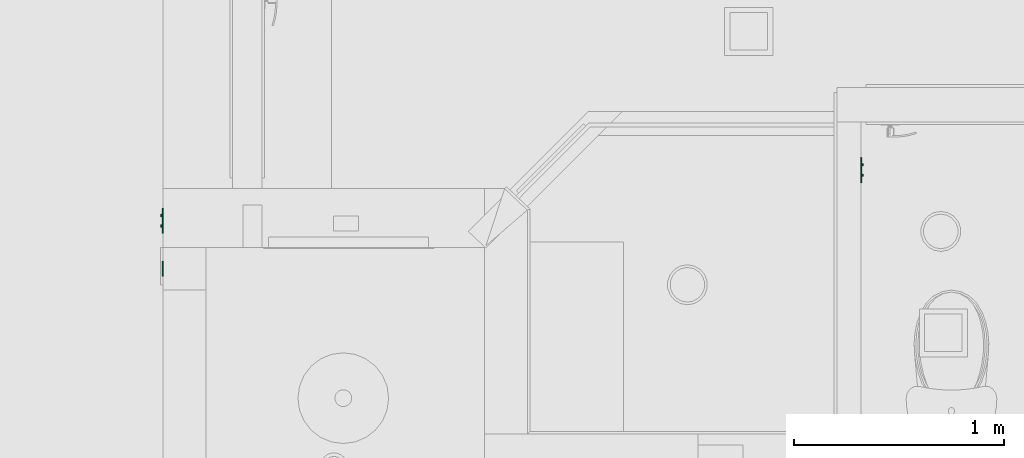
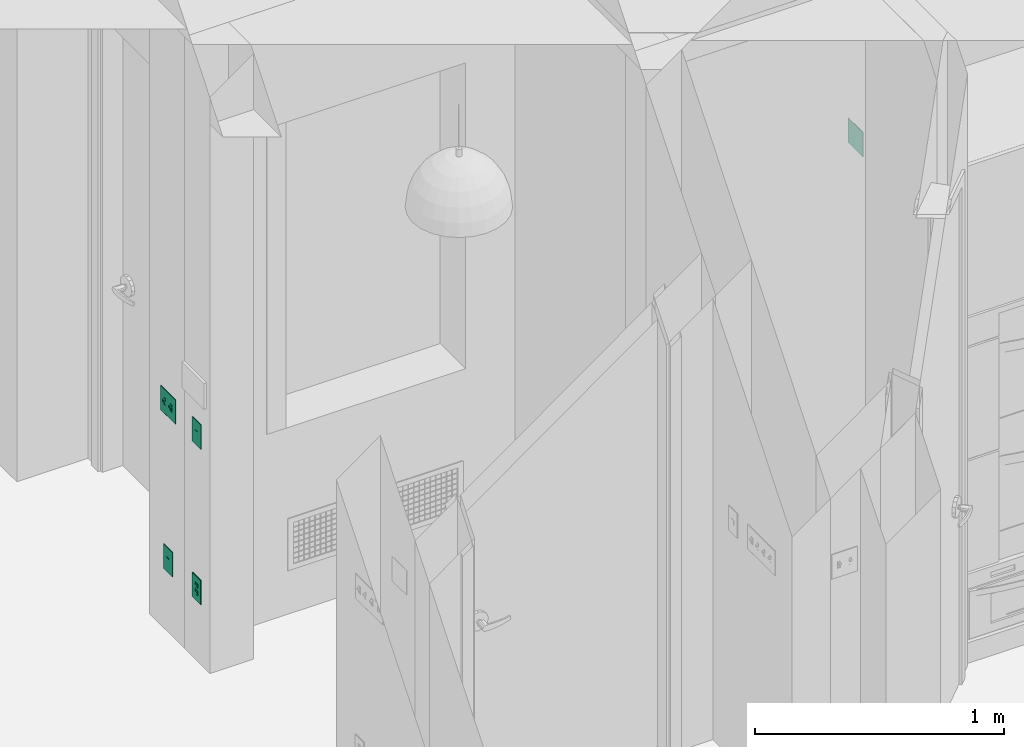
# One storey, part 23 of 103: 5 flow controllers.
"""IFC2X3 building model written with IfcOpenShell, lengths in inches."""

from ifc_helpers import new_model, entity, si_unit, converted_unit, derived_unit, money_unit, direction, frame, origin_with_axes, place, context, subcontext, project, spatial, faceted_brep, source, transform, mapped, type_object, element, save


model = new_model("IFC2X3")

# Units and contexts
model_context = context("Model", 3, precision=0.00039370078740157, world=origin_with_axes(), true_north=direction((0.0, 1.0)))
plan_context = context("Plan", 3, precision=0.00039370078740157, world=origin_with_axes(), true_north=direction((0.0, 1.0)))
body_context = subcontext(model_context, "Body", "Model", "MODEL_VIEW")
ifc_project = project(units=[converted_unit("LENGTHUNIT", "INCH", entity("IfcPositiveLengthMeasure", 0.0254), si_unit("LENGTHUNIT", "METRE"), dimensions=[1, 0, 0, 0, 0, 0, 0]), converted_unit("AREAUNIT", "SQUARE_FOOT", entity("IfcPositiveLengthMeasure", 0.09290304), si_unit("AREAUNIT", "SQUARE_METRE"), dimensions=[2, 0, 0, 0, 0, 0, 0]), si_unit("PLANEANGLEUNIT", "RADIAN"), si_unit("SOLIDANGLEUNIT", "STERADIAN"), money_unit("USD"), converted_unit("TIMEUNIT", "Year", entity("IfcTimeMeasure", 31557600.0), si_unit("TIMEUNIT", "SECOND"), dimensions=[0, 0, 1, 0, 0, 0, 0]), si_unit("MASSUNIT", "GRAM", prefix="KILO"), si_unit("THERMODYNAMICTEMPERATUREUNIT", "DEGREE_CELSIUS"), si_unit("LUMINOUSINTENSITYUNIT", "LUMEN"), si_unit("ENERGYUNIT", "JOULE", prefix="MEGA"), derived_unit("SPECIFICHEATCAPACITYUNIT", [(si_unit("ENERGYUNIT", "JOULE"), 1), (si_unit("MASSUNIT", "GRAM", prefix="KILO"), -1), (si_unit("THERMODYNAMICTEMPERATUREUNIT", "KELVIN"), -1)])], contexts=[model_context, plan_context])

# Site, building, storey
site_placement = place(None, origin_with_axes())
site = spatial("IfcSite", under=ifc_project, at=site_placement, Name="Site", CompositionType="ELEMENT")
building_placement = place(site_placement, origin_with_axes())
building = spatial("IfcBuilding", under=site, at=building_placement, Name="Building", CompositionType="ELEMENT")
storey_placement = place(building_placement, frame((0.0, 0.0, 127.9999999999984), z_axis=(0.0, 0.0, 1.0), x_axis=(1.0, 0.0, 0.0)))
storey = spatial("IfcBuildingStorey", under=building, at=storey_placement, Name="Second Floor", CompositionType="ELEMENT", Elevation=128.0)

# Flow controllers
switching_device_type_1 = type_object("IfcSwitchingDeviceType", Name="Outlet 1 US", PredefinedType="NOTDEFINED")
shared_shape_1 = source(origin_with_axes(), body_context, "Body", "Brep", [
    faceted_brep([(0.39370078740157, -0.03444881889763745, -1.18110236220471), (0.5436477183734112, -0.03444881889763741, -0.7086614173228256), (0.5436477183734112, -0.2165354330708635, -0.7086614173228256), (0.39370078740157, -0.2165354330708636, -1.18110236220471), (-0.3937007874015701, -0.03444881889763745, -1.181102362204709), (-0.543647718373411, -0.03444881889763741, -0.7086614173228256), (-0.39370078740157, -0.03444881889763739, -0.2362204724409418), (0.3937007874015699, -0.03444881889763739, -0.2362204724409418), (-0.196850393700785, -0.03444881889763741, -0.7086614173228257), (-0.196850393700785, -0.0344488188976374, -0.4724409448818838), (-0.275590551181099, -0.0344488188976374, -0.4724409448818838), (-0.275590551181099, -0.03444881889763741, -0.7086614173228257), (0.196850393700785, -0.03444881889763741, -0.7086614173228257), (0.275590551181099, -0.03444881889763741, -0.7086614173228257), (0.275590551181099, -0.0344488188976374, -0.4724409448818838), (0.196850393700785, -0.0344488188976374, -0.4724409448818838), (-0.078740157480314, -0.03444881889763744, -1.102362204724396), (0.078740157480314, -0.03444881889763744, -1.102362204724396), (0.078740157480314, -0.03444881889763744, -1.023622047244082), (0.06819097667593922, -0.03444881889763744, -0.9842519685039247), (0.03937007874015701, -0.03444881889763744, -0.9554310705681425), (0.0, -0.03444881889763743, -0.9448818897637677), (-0.03937007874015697, -0.03444881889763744, -0.9554310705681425), (-0.06819097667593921, -0.03444881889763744, -0.9842519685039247), (-0.078740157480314, -0.03444881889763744, -1.023622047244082), (0.3937007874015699, -0.2165354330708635, -0.2362204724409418), (-0.39370078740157, -0.2165354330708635, -0.2362204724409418), (-0.543647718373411, -0.2165354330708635, -0.7086614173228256), (-0.3937007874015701, -0.2165354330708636, -1.181102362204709), (-0.196850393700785, -0.2165354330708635, -0.7086614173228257), (-0.275590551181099, -0.2165354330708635, -0.7086614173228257), (-0.275590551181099, -0.2165354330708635, -0.4724409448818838), (-0.196850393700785, -0.2165354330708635, -0.4724409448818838), (0.196850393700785, -0.2165354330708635, -0.7086614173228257), (0.196850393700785, -0.2165354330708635, -0.4724409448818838), (0.275590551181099, -0.2165354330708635, -0.4724409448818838), (0.275590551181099, -0.2165354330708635, -0.7086614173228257), (-0.078740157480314, -0.2165354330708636, -1.102362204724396), (-0.078740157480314, -0.2165354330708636, -1.023622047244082), (-0.06819097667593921, -0.2165354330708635, -0.9842519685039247), (-0.03937007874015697, -0.2165354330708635, -0.9554310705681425), (0.0, -0.2165354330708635, -0.9448818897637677), (0.03937007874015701, -0.2165354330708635, -0.9554310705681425), (0.06819097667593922, -0.2165354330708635, -0.9842519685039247), (0.078740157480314, -0.2165354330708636, -1.023622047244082), (0.078740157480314, -0.2165354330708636, -1.102362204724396)], [[[0, 1, 2, 3]], [[0, 4, 5, 6, 7, 1], [8, 9, 10, 11], [12, 13, 14, 15], [16, 17, 18, 19, 20, 21, 22, 23, 24]], [[1, 7, 25, 2]], [[3, 2, 25, 26, 27, 28], [29, 30, 31, 32], [33, 34, 35, 36], [37, 38, 39, 40, 41, 42, 43, 44, 45]], [[4, 0, 3, 28]], [[5, 4, 28, 27]], [[6, 5, 27, 26]], [[7, 6, 26, 25]], [[9, 8, 29, 32]], [[10, 9, 32, 31]], [[11, 10, 31, 30]], [[8, 11, 30, 29]], [[13, 12, 33, 36]], [[14, 13, 36, 35]], [[15, 14, 35, 34]], [[12, 15, 34, 33]], [[17, 16, 37, 45]], [[18, 17, 45, 44]], [[19, 18, 44, 43]], [[20, 19, 43, 42]], [[21, 20, 42, 41]], [[22, 21, 41, 40]], [[23, 22, 40, 39]], [[24, 23, 39, 38]], [[16, 24, 38, 37]]]),
    faceted_brep([(0.39370078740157, -0.03444881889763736, 0.2362204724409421), (0.5436477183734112, -0.03444881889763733, 0.7086614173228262), (0.5436477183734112, -0.2165354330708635, 0.7086614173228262), (0.39370078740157, -0.2165354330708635, 0.2362204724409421), (-0.3937007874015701, -0.03444881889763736, 0.2362204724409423), (-0.543647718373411, -0.03444881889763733, 0.7086614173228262), (-0.39370078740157, -0.0344488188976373, 1.18110236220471), (0.3937007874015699, -0.0344488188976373, 1.18110236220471), (-0.196850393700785, -0.03444881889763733, 0.7086614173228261), (-0.196850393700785, -0.03444881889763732, 0.944881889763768), (-0.275590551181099, -0.03444881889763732, 0.944881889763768), (-0.275590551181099, -0.03444881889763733, 0.7086614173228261), (0.196850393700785, -0.03444881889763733, 0.7086614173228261), (0.275590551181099, -0.03444881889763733, 0.7086614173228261), (0.275590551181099, -0.03444881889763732, 0.944881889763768), (0.196850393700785, -0.03444881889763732, 0.944881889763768), (-0.078740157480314, -0.03444881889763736, 0.3149606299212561), (0.078740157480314, -0.03444881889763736, 0.3149606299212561), (0.078740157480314, -0.03444881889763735, 0.3937007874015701), (0.06819097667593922, -0.03444881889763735, 0.4330708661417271), (0.03937007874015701, -0.03444881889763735, 0.4618917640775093), (0.0, -0.03444881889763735, 0.472440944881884), (-0.03937007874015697, -0.03444881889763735, 0.4618917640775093), (-0.06819097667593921, -0.03444881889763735, 0.4330708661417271), (-0.078740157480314, -0.03444881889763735, 0.3937007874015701), (0.3937007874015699, -0.2165354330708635, 1.18110236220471), (-0.39370078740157, -0.2165354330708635, 1.18110236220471), (-0.543647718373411, -0.2165354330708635, 0.7086614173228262), (-0.3937007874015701, -0.2165354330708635, 0.2362204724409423), (-0.196850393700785, -0.2165354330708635, 0.7086614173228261), (-0.275590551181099, -0.2165354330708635, 0.7086614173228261), (-0.275590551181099, -0.2165354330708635, 0.944881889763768), (-0.196850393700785, -0.2165354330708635, 0.944881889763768), (0.196850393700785, -0.2165354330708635, 0.7086614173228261), (0.196850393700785, -0.2165354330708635, 0.944881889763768), (0.275590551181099, -0.2165354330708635, 0.944881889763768), (0.275590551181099, -0.2165354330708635, 0.7086614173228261), (-0.078740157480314, -0.2165354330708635, 0.3149606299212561), (-0.078740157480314, -0.2165354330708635, 0.3937007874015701), (-0.06819097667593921, -0.2165354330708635, 0.4330708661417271), (-0.03937007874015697, -0.2165354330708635, 0.4618917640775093), (0.0, -0.2165354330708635, 0.472440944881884), (0.03937007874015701, -0.2165354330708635, 0.4618917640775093), (0.06819097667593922, -0.2165354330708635, 0.4330708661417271), (0.078740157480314, -0.2165354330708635, 0.3937007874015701), (0.078740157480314, -0.2165354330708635, 0.3149606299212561)], [[[0, 1, 2, 3]], [[0, 4, 5, 6, 7, 1], [8, 9, 10, 11], [12, 13, 14, 15], [16, 17, 18, 19, 20, 21, 22, 23, 24]], [[1, 7, 25, 2]], [[3, 2, 25, 26, 27, 28], [29, 30, 31, 32], [33, 34, 35, 36], [37, 38, 39, 40, 41, 42, 43, 44, 45]], [[4, 0, 3, 28]], [[5, 4, 28, 27]], [[6, 5, 27, 26]], [[7, 6, 26, 25]], [[9, 8, 29, 32]], [[10, 9, 32, 31]], [[11, 10, 31, 30]], [[8, 11, 30, 29]], [[13, 12, 33, 36]], [[14, 13, 36, 35]], [[15, 14, 35, 34]], [[12, 15, 34, 33]], [[17, 16, 37, 45]], [[18, 17, 45, 44]], [[19, 18, 44, 43]], [[20, 19, 43, 42]], [[21, 20, 42, 41]], [[22, 21, 41, 40]], [[23, 22, 40, 39]], [[24, 23, 39, 38]], [[16, 24, 38, 37]]]),
    faceted_brep([(-1.343503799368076, -0.1377952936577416, -2.327755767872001), (1.343503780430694, -0.1377952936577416, -2.327755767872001), (1.343503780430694, -0.1377952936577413, 2.327755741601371), (-1.343503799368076, -0.1377952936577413, 2.327755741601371), (0.39370078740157, -0.1377952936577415, -1.18110236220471), (-0.3937007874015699, -0.1377952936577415, -1.181102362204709), (-0.5436477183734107, -0.1377952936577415, -0.7086614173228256), (-0.39370078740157, -0.1377952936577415, -0.2362204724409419), (0.3937007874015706, -0.1377952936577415, -0.2362204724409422), (0.5436477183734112, -0.1377952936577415, -0.7086614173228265), (-0.39370078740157, -0.1377952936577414, 1.18110236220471), (0.3937007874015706, -0.1377952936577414, 1.18110236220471), (0.5436477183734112, -0.1377952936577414, 0.7086614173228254), (0.39370078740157, -0.1377952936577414, 0.236220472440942), (-0.3937007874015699, -0.1377952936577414, 0.2362204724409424), (-0.5436477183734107, -0.1377952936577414, 0.7086614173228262), (-1.352419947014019, -0.1366214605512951, -2.336671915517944), (1.352419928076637, -0.1366214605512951, -2.336671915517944), (1.352419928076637, -0.1366214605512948, 2.336671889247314), (-1.352419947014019, -0.1366214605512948, 2.336671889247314), (0.39370078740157, -0.03444881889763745, -1.18110236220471), (-0.3937007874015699, -0.03444881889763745, -1.181102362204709), (-0.5436477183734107, -0.03444881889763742, -0.7086614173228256), (-0.39370078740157, -0.03444881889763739, -0.2362204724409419), (0.3937007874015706, -0.03444881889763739, -0.2362204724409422), (0.5436477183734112, -0.03444881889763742, -0.7086614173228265), (-0.39370078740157, -0.0344488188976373, 1.18110236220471), (0.3937007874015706, -0.0344488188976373, 1.18110236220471), (0.5436477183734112, -0.03444881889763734, 0.7086614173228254), (0.39370078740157, -0.03444881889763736, 0.236220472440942), (-0.3937007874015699, -0.03444881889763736, 0.2362204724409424), (-0.5436477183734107, -0.03444881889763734, 0.7086614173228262), (-1.36786294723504, -0.1277054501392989, -2.352114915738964), (1.367862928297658, -0.1277054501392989, -2.352114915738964), (1.367862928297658, -0.1277054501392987, 2.352114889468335), (-1.36786294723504, -0.1277054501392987, 2.352114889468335), (-1.376778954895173, -0.1122624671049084, -2.361030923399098), (1.376778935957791, -0.1122624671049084, -2.361030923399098), (1.376778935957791, -0.1122624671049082, 2.361030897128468), (-1.376778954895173, -0.1122624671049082, 2.361030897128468), (-1.377952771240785, -0.1033464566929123, -2.362204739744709), (1.377952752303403, -0.1033464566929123, -2.362204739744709), (1.377952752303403, -0.103346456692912, 2.36220471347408), (-1.377952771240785, -0.103346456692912, 2.36220471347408), (-1.377952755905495, 0.0, -2.36220472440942), (1.377952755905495, 0.0, -2.36220472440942), (1.377952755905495, 0.0, 2.36220472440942), (-1.377952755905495, 0.0, 2.36220472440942)], [[[0, 1, 2, 3], [4, 5, 6, 7, 8, 9], [10, 11, 12, 13, 14, 15]], [[1, 0, 16, 17]], [[2, 1, 17, 18]], [[3, 2, 18, 19]], [[0, 3, 19, 16]], [[4, 20, 21, 5]], [[5, 21, 22, 6]], [[6, 22, 23, 7]], [[7, 23, 24, 8]], [[8, 24, 25, 9]], [[9, 25, 20, 4]], [[11, 10, 26, 27]], [[12, 11, 27, 28]], [[13, 12, 28, 29]], [[14, 13, 29, 30]], [[15, 14, 30, 31]], [[10, 15, 31, 26]], [[17, 16, 32, 33]], [[18, 17, 33, 34]], [[19, 18, 34, 35]], [[16, 19, 35, 32]], [[22, 21, 20, 25, 24, 23]], [[28, 27, 26, 31, 30, 29]], [[33, 32, 36, 37]], [[34, 33, 37, 38]], [[35, 34, 38, 39]], [[32, 35, 39, 36]], [[37, 36, 40, 41]], [[38, 37, 41, 42]], [[39, 38, 42, 43]], [[36, 39, 43, 40]], [[41, 40, 44, 45]], [[42, 41, 45, 46]], [[43, 42, 46, 47]], [[40, 43, 47, 44]], [[46, 45, 44, 47]]]),
])
flow_controller_placement = place(storey_placement, frame((-75.7499999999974, 432.9999999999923, 13.99803149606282), z_axis=(0.0, 0.0, 1.0), x_axis=(0.0, -1.0, 0.0)))
element("IfcFlowController", 1, at=flow_controller_placement, inside=storey, type_object=switching_device_type_1, Name="FU - 029", context=body_context, shape_type="MappedRepresentation", body=[
    mapped(shared_shape_1, transform((0.0, 0.0, 0.0))),
])
shared_shape_2 = source(origin_with_axes(), body_context, "Body", "Brep", [
    faceted_brep([(0.39370078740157, -0.0344488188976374, -0.472440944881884), (0.3937007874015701, -0.03444881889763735, 0.472440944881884), (0.3937007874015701, -0.2165354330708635, 0.472440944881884), (0.39370078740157, -0.2165354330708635, -0.472440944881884), (-0.3937007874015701, -0.0344488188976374, -0.4724409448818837), (-0.39370078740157, -0.03444881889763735, 0.472440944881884), (-0.39370078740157, -0.2165354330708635, 0.472440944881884), (-0.3937007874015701, -0.2165354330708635, -0.4724409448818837)], [[[0, 1, 2, 3]], [[0, 4, 5, 1]], [[1, 5, 6, 2]], [[3, 2, 6, 7]], [[4, 0, 3, 7]], [[5, 4, 7, 6]]]),
    faceted_brep([(1.377952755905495, -0.1377952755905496, -2.36220472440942), (1.377952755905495, -0.1377952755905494, 2.36220472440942), (-1.377952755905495, -0.1377952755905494, 2.36220472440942), (-1.377952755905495, -0.1377952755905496, -2.36220472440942), (-0.3937007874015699, -0.1377952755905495, -0.4724409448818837), (-0.39370078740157, -0.1377952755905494, 0.4724409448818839), (0.3937007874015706, -0.1377952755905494, 0.4724409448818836), (0.39370078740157, -0.1377952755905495, -0.472440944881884), (1.377952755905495, 0.0, 2.36220472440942), (1.377952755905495, 0.0, -2.36220472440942), (-1.377952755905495, 0.0, 2.36220472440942), (-1.377952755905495, 0.0, -2.36220472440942), (-0.3937007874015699, -0.0344488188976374, -0.4724409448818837), (-0.39370078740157, -0.03444881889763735, 0.4724409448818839), (0.3937007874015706, -0.03444881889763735, 0.4724409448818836), (0.39370078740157, -0.0344488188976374, -0.472440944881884)], [[[0, 1, 2, 3], [4, 5, 6, 7]], [[8, 1, 0, 9]], [[10, 2, 1, 8]], [[11, 3, 2, 10]], [[9, 0, 3, 11]], [[5, 4, 12, 13]], [[6, 5, 13, 14]], [[7, 6, 14, 15]], [[4, 7, 15, 12]], [[10, 8, 9, 11]], [[14, 13, 12, 15]]]),
])
for number, where, z_axis, x_axis, name in (
    (2, (-75.74999999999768, 432.9999999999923, 43.99999999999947), (0.0, 0.0, 1.0), (0.0, -1.0, 0.0), "OBJ-05"),
    (3, (-75.74999999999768, 441.9999999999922, 13.99999999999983), (0.0, 0.0, 1.0), (0.0, -1.0, 0.0), "OBJ-05"),
):
    element("IfcFlowController", number, at=place(storey_placement, frame(where, z_axis=z_axis, x_axis=x_axis)), inside=storey, type_object=switching_device_type_1, Name=name, context=body_context, shape_type="MappedRepresentation", body=[
        mapped(shared_shape_2, transform((0.0, 0.0, 0.0))),
    ])
switching_device_type_2 = type_object("IfcSwitchingDeviceType", Name="Switch US", PredefinedType="NOTDEFINED")
shared_shape_3 = source(origin_with_axes(), body_context, "Body", "Brep", [
    faceted_brep([(1.18110236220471, 0.0, -0.5905511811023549), (0.7874015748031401, 0.0, -0.5905511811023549), (0.7874015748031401, 0.0, 0.5905511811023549), (1.18110236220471, 0.0, 0.5905511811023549), (1.18110236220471, -0.1033464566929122, -0.5905511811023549), (0.7874015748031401, -0.1033464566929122, -0.5905511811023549), (0.7874015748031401, -0.1033464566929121, 0.157480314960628), (0.7874015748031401, -0.4970472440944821, 0.1574803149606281), (0.7874015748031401, -0.4970472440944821, 0.472440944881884), (0.7874015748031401, -0.1033464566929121, 0.472440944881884), (0.7874015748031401, -0.1033464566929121, 0.5905511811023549), (1.18110236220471, -0.103346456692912, 0.5905511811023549), (1.18110236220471, -0.1033464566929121, 0.472440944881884), (1.18110236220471, -0.4970472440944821, 0.472440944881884), (1.18110236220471, -0.4970472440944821, 0.1574803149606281), (1.18110236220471, -0.1033464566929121, 0.157480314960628)], [[[0, 1, 2, 3]], [[4, 5, 1, 0]], [[1, 5, 6, 7, 8, 9, 10, 2]], [[3, 2, 10, 11]], [[0, 3, 11, 12, 13, 14, 15, 4]], [[15, 6, 5, 4]], [[14, 7, 6, 15]], [[13, 8, 7, 14]], [[12, 9, 8, 13]], [[11, 10, 9, 12]]]),
    faceted_brep([(1.259842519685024, 0.0, -0.669291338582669), (1.259842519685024, -0.1771653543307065, -0.669291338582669), (0.7086614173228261, -0.1771653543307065, -0.669291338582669), (0.7086614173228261, 0.0, -0.669291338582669), (1.259842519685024, 0.0, 0.669291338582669), (1.259842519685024, -0.1771653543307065, 0.669291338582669), (0.7086614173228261, -0.1771653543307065, 0.669291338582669), (1.18110236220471, -0.1771653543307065, -0.5905511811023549), (0.78740157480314, -0.1771653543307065, -0.5905511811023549), (0.78740157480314, -0.1771653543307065, 0.5905511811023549), (1.18110236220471, -0.1771653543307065, 0.5905511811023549), (0.7086614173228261, 0.0, 0.669291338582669), (1.18110236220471, 0.0, -0.5905511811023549), (1.18110236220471, 0.0, 0.5905511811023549), (0.78740157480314, 0.0, 0.5905511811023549), (0.78740157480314, 0.0, -0.5905511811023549)], [[[0, 1, 2, 3]], [[4, 5, 1, 0]], [[1, 5, 6, 2], [7, 8, 9, 10]], [[3, 2, 6, 11]], [[0, 3, 11, 4], [12, 13, 14, 15]], [[11, 6, 5, 4]], [[15, 8, 7, 12]], [[14, 9, 8, 15]], [[13, 10, 9, 14]], [[12, 7, 10, 13]]]),
    faceted_brep([(0.0, -0.103346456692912, 2.362204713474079), (2.362204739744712, -0.103346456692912, 2.362204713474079), (2.36220472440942, 0.0, 2.36220472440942), (0.0, 0.0, 2.36220472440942), (0.0, -0.1122624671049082, 2.361030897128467), (2.361030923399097, -0.1122624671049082, 2.361030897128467), (2.362204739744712, -0.1033464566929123, -2.36220473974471), (2.36220472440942, 0.0, -2.36220472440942), (0.0, 0.0, -2.36220472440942), (0.7086614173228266, 0.0, -0.669291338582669), (1.259842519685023, 0.0, -0.669291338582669), (1.259842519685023, 0.0, 0.669291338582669), (0.7086614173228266, 0.0, 0.669291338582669), (0.0, -0.1033464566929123, -2.36220473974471), (0.0, -0.1122624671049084, -2.361030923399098), (0.0, -0.1277054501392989, -2.352114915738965), (0.0, -0.1366214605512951, -2.336671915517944), (0.0, -0.1377952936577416, -2.327755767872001), (0.0, -0.1377952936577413, 2.32775574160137), (0.0, -0.1366214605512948, 2.336671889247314), (0.0, -0.1277054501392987, 2.352114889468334), (2.352114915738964, -0.1277054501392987, 2.352114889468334), (2.361030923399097, -0.1122624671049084, -2.361030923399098), (0.7086614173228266, -0.1377952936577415, -0.669291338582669), (1.259842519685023, -0.1377952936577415, -0.669291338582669), (1.259842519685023, -0.1377952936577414, 0.669291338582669), (0.7086614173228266, -0.1377952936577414, 0.669291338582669), (2.352114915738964, -0.1277054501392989, -2.352114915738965), (2.336671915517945, -0.1366214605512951, -2.336671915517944), (2.327755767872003, -0.1377952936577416, -2.327755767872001), (2.327755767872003, -0.1377952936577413, 2.32775574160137), (2.336671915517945, -0.1366214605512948, 2.336671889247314)], [[[0, 1, 2, 3]], [[4, 5, 1, 0]], [[6, 7, 2, 1]], [[3, 2, 7, 8], [9, 10, 11, 12]], [[8, 13, 14, 15, 16, 17, 18, 19, 20, 4, 0, 3]], [[20, 21, 5, 4]], [[22, 6, 1, 5]], [[8, 7, 6, 13]], [[10, 9, 23, 24]], [[11, 10, 24, 25]], [[12, 11, 25, 26]], [[9, 12, 26, 23]], [[13, 6, 22, 14]], [[14, 22, 27, 15]], [[15, 27, 28, 16]], [[16, 28, 29, 17]], [[17, 29, 30, 18], [25, 24, 23, 26]], [[18, 30, 31, 19]], [[19, 31, 21, 20]], [[27, 22, 5, 21]], [[28, 27, 21, 31]], [[29, 28, 31, 30]]]),
    faceted_brep([(-0.78740157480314, 0.0, -0.5905511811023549), (-1.18110236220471, 0.0, -0.5905511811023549), (-1.18110236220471, 0.0, 0.5905511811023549), (-0.78740157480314, 0.0, 0.5905511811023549), (-0.78740157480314, -0.1033464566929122, -0.5905511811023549), (-1.18110236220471, -0.1033464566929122, -0.5905511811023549), (-1.18110236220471, -0.1033464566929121, 0.157480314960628), (-1.18110236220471, -0.4970472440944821, 0.1574803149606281), (-1.18110236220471, -0.4970472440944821, 0.472440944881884), (-1.18110236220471, -0.1033464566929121, 0.472440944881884), (-1.18110236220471, -0.1033464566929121, 0.5905511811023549), (-0.78740157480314, -0.103346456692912, 0.5905511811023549), (-0.78740157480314, -0.1033464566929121, 0.472440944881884), (-0.78740157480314, -0.4970472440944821, 0.472440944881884), (-0.78740157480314, -0.4970472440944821, 0.1574803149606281), (-0.78740157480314, -0.1033464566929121, 0.157480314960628)], [[[0, 1, 2, 3]], [[4, 5, 1, 0]], [[1, 5, 6, 7, 8, 9, 10, 2]], [[3, 2, 10, 11]], [[0, 3, 11, 12, 13, 14, 15, 4]], [[15, 6, 5, 4]], [[14, 7, 6, 15]], [[13, 8, 7, 14]], [[12, 9, 8, 13]], [[11, 10, 9, 12]]]),
    faceted_brep([(-0.7086614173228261, 0.0, -0.669291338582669), (-0.7086614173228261, -0.1771653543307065, -0.669291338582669), (-1.259842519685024, -0.1771653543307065, -0.669291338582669), (-1.259842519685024, 0.0, -0.669291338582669), (-0.7086614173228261, 0.0, 0.669291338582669), (-0.7086614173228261, -0.1771653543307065, 0.669291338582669), (-1.259842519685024, -0.1771653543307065, 0.669291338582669), (-0.78740157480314, -0.1771653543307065, -0.5905511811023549), (-1.18110236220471, -0.1771653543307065, -0.5905511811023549), (-1.18110236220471, -0.1771653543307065, 0.5905511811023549), (-0.78740157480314, -0.1771653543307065, 0.5905511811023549), (-1.259842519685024, 0.0, 0.669291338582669), (-0.78740157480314, 0.0, -0.5905511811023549), (-0.78740157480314, 0.0, 0.5905511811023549), (-1.18110236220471, 0.0, 0.5905511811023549), (-1.18110236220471, 0.0, -0.5905511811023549)], [[[0, 1, 2, 3]], [[4, 5, 1, 0]], [[1, 5, 6, 2], [7, 8, 9, 10]], [[3, 2, 6, 11]], [[0, 3, 11, 4], [12, 13, 14, 15]], [[11, 6, 5, 4]], [[15, 8, 7, 12]], [[14, 9, 8, 15]], [[13, 10, 9, 14]], [[12, 7, 10, 13]]]),
    faceted_brep([(0.0, 0.0, -2.36220472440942), (-2.362204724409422, 0.0, -2.36220472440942), (-2.362204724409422, 0.0, 2.36220472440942), (0.0, 0.0, 2.36220472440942), (-1.259842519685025, 0.0, -0.669291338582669), (-0.7086614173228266, 0.0, -0.669291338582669), (-0.7086614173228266, 0.0, 0.669291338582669), (-1.259842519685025, 0.0, 0.669291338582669), (0.0, -0.1033464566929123, -2.36220473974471), (-2.362204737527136, -0.1033464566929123, -2.36220473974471), (-2.362204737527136, -0.103346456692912, 2.362204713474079), (0.0, -0.103346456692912, 2.362204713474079), (0.0, -0.1122624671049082, 2.361030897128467), (0.0, -0.1277054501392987, 2.352114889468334), (0.0, -0.1366214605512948, 2.336671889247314), (0.0, -0.1377952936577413, 2.32775574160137), (0.0, -0.1377952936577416, -2.327755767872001), (0.0, -0.1366214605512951, -2.336671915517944), (0.0, -0.1277054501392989, -2.352114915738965), (0.0, -0.1122624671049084, -2.361030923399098), (-1.259842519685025, -0.1377952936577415, -0.669291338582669), (-0.7086614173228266, -0.1377952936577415, -0.669291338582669), (-0.7086614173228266, -0.1377952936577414, 0.669291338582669), (-1.259842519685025, -0.1377952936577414, 0.669291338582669), (-2.361030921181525, -0.1122624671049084, -2.361030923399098), (-2.361030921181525, -0.1122624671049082, 2.361030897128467), (-2.352114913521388, -0.1277054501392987, 2.352114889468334), (-2.336671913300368, -0.1366214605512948, 2.336671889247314), (-2.327755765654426, -0.1377952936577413, 2.32775574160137), (-2.327755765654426, -0.1377952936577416, -2.327755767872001), (-2.336671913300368, -0.1366214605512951, -2.336671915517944), (-2.352114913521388, -0.1277054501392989, -2.352114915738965)], [[[0, 1, 2, 3], [4, 5, 6, 7]], [[8, 9, 1, 0]], [[10, 2, 1, 9]], [[3, 2, 10, 11]], [[11, 12, 13, 14, 15, 16, 17, 18, 19, 8, 0, 3]], [[5, 4, 20, 21]], [[6, 5, 21, 22]], [[7, 6, 22, 23]], [[4, 7, 23, 20]], [[19, 24, 9, 8]], [[25, 10, 9, 24]], [[11, 10, 25, 12]], [[12, 25, 26, 13]], [[13, 26, 27, 14]], [[14, 27, 28, 15]], [[15, 28, 29, 16], [22, 21, 20, 23]], [[16, 29, 30, 17]], [[17, 30, 31, 18]], [[18, 31, 24, 19]], [[26, 25, 24, 31]], [[27, 26, 31, 30]], [[28, 27, 30, 29]]]),
])
for number, where, z_axis, x_axis, name in (
    (4, (-75.74999999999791, 442.0000024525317, 43.99999999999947), (0.0, 0.0, 1.0), (4.087565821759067e-07, -0.9999999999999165, 0.0), "OBJ-09"),
    (5, (54.99946523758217, 451.5003153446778, 43.99999999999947), (0.0, 0.0, 1.0), (-9.406550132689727e-08, 0.9999999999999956, 0.0), "OBJ-09"),
):
    element("IfcFlowController", number, at=place(storey_placement, frame(where, z_axis=z_axis, x_axis=x_axis)), inside=storey, type_object=switching_device_type_2, Name=name, context=body_context, shape_type="MappedRepresentation", body=[
        mapped(shared_shape_3, transform((0.0, 0.0, 0.0))),
    ])

save(model, "model.ifc")
